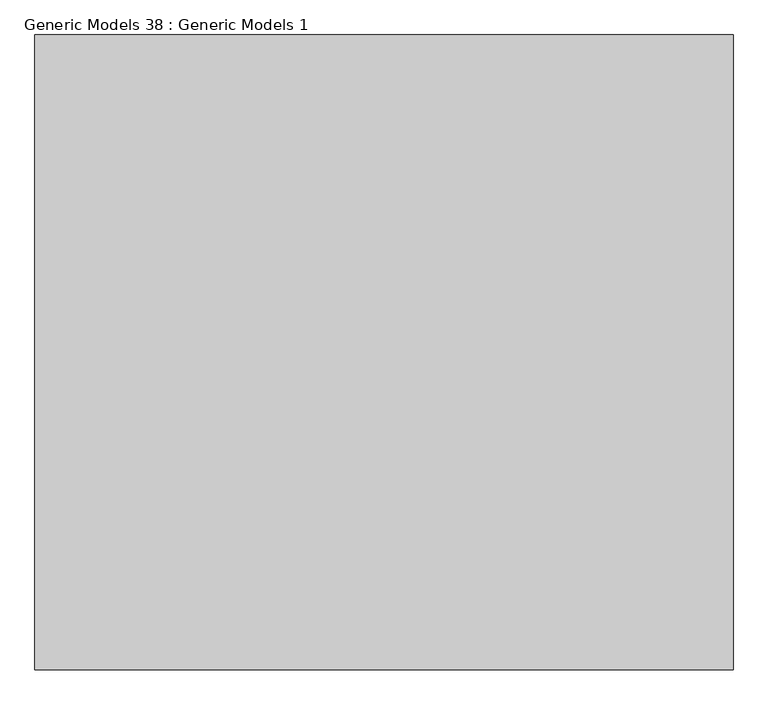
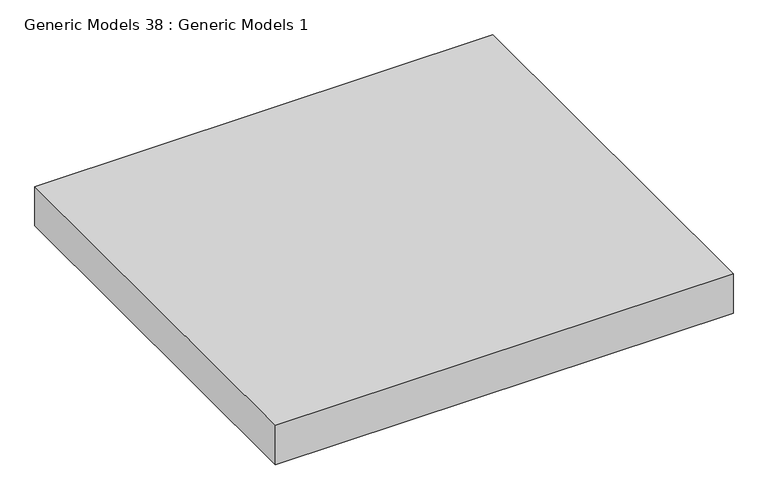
"""IFC4 building model written with IfcOpenShell, lengths in millimetres: proxy geometry, Generic Models 38 : Generic Models 1."""

from ifc_helpers import new_model, si_unit, origin, origin_with_axes, place, context, project, spatial, polyline, outline, extrude, source, transform, mapped, element, save


def generic_models_38_generic_models_1_a86b967c(model_context):
    return source(origin(), model_context, "Body", "SweptSolid", [
        extrude(outline(polyline([(2637.1851171, -9346.5772826), (2637.1851171, -8346.5772826), (3737.1851171, -8346.5772826), (3737.1851171, -9346.5772826), (2637.1851171, -9346.5772826)])), origin_with_axes(), (0.0, 0.0, 1.0), 100.0),
    ])


if __name__ == "__main__":
    model = new_model("IFC4")
    model_context = context("Model", 3, world=origin())
    ifc_project = project(units=[si_unit("LENGTHUNIT", "METRE", prefix="MILLI")], contexts=[model_context])
    site = spatial("IfcSite", under=ifc_project)
    building = spatial("IfcBuilding", under=site)
    placement = place(None, origin())
    generic_models_38_generic_models_1_shape = generic_models_38_generic_models_1_a86b967c(model_context)
    element("IfcBuildingElementProxy", 1, Name="Generic Models 38 : Generic Models 1", ObjectType="Generic Models 38 : Generic Models 1", at=placement, inside=building, context=model_context, shape_type="MappedRepresentation", body=[
        mapped(generic_models_38_generic_models_1_shape, transform((0.0, 0.0, 0.0), x_axis=(1.0, 0.0, 0.0), y_axis=(0.0, 1.0, 0.0), z_axis=(0.0, 0.0, 1.0))),
    ])
    save(model, "model.ifc")
